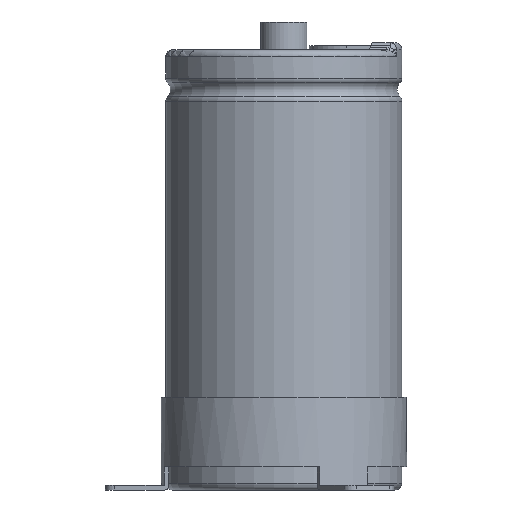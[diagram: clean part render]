
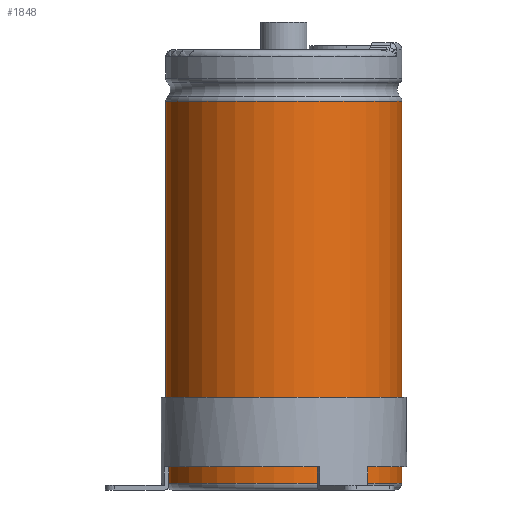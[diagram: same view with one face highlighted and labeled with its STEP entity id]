
A CAD part, front view. The second image highlights one B-rep face of the part: STEP entity #1848.
In plain terms, the highlighted cylindrical face has radius 25.5 mm (diameter 51 mm), a partial arc.
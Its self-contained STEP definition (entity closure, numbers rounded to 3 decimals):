
#370=LINE('',#9285,#608);
#371=LINE('',#9289,#609);
#608=VECTOR('',#6925,1.);
#609=VECTOR('',#6928,1.);
#1457=FACE_OUTER_BOUND('',#2362,.T.);
#1848=ADVANCED_FACE('',(#1457),#1998,.T.);
#1998=CYLINDRICAL_SURFACE('',#5769,25.5);
#2362=EDGE_LOOP('',(#3435,#3436,#3437,#3438));
#3435=ORIENTED_EDGE('',*,*,#4849,.T.);
#3436=ORIENTED_EDGE('',*,*,#4850,.T.);
#3437=ORIENTED_EDGE('',*,*,#4851,.F.);
#3438=ORIENTED_EDGE('',*,*,#4852,.F.);
#4222=VERTEX_POINT('',#9278);
#4224=VERTEX_POINT('',#9282);
#4225=VERTEX_POINT('',#9286);
#4226=VERTEX_POINT('',#9288);
#4849=EDGE_CURVE('',#4222,#4224,#5258,.T.);
#4850=EDGE_CURVE('',#4224,#4225,#370,.T.);
#4851=EDGE_CURVE('',#4226,#4225,#5259,.T.);
#4852=EDGE_CURVE('',#4222,#4226,#371,.T.);
#5258=CIRCLE('',#5766,25.5);
#5259=CIRCLE('',#5768,25.5);
#5766=AXIS2_PLACEMENT_3D('',#9283,#6921,#6922);
#5768=AXIS2_PLACEMENT_3D('',#9287,#6926,#6927);
#5769=AXIS2_PLACEMENT_3D('',#9290,#6929,#6930);
#6921=DIRECTION('',(0.,0.,-1.));
#6922=DIRECTION('',(0.,1.,0.));
#6925=DIRECTION('',(0.,0.,-1.));
#6926=DIRECTION('',(0.,0.,-1.));
#6927=DIRECTION('',(0.,1.,0.));
#6928=DIRECTION('',(0.,0.,-1.));
#6929=DIRECTION('',(0.,0.,-1.));
#6930=DIRECTION('',(0.,1.,0.));
#9278=CARTESIAN_POINT('',(3.989,25.186,83.9));
#9282=CARTESIAN_POINT('',(-3.989,25.186,83.9));
#9283=CARTESIAN_POINT('',(0.,0.,83.9));
#9285=CARTESIAN_POINT('',(-3.989,25.186,83.9));
#9286=CARTESIAN_POINT('',(-3.989,25.186,1.5));
#9287=CARTESIAN_POINT('',(0.,0.,1.5));
#9288=CARTESIAN_POINT('',(3.989,25.186,1.5));
#9289=CARTESIAN_POINT('',(3.989,25.186,83.9));
#9290=CARTESIAN_POINT('',(0.,0.,0.));
